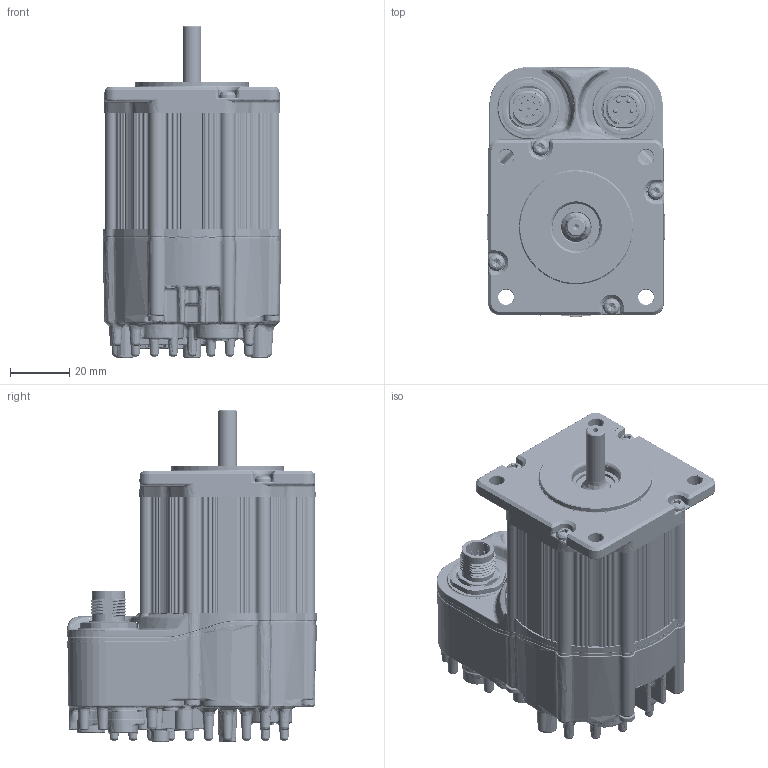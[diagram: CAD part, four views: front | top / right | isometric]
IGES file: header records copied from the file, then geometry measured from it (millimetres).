
Start section: SolidWorks IGES file using analytic representation for surfaces
Global section: file name: C:\TeknicPDM\EtherPath CPM-S\EtherPath CPM-S Customer Files\CPM-S Customer Models\CPMS 231xQ.IGS; native system: SolidWorks 2020; preprocessor: SolidWorks 2020; author: mike_berezny; date: 230808.145828; units: inch
Bounding box: 60.26 x 84.12 x 111.8 mm (x, y, z)
Surface area: 109807.4 mm2 (no closed solid volume)
Topology: 0 solids, 0 shells, 11323 faces, 101352 edges, 100772 vertices
Faces by surface type: bspline 5886, revolution 5437
